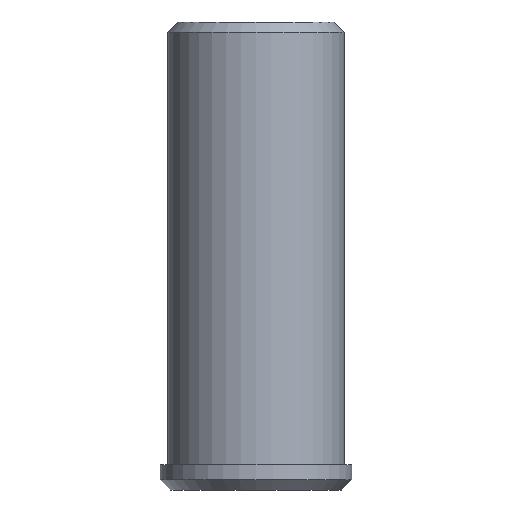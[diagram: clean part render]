
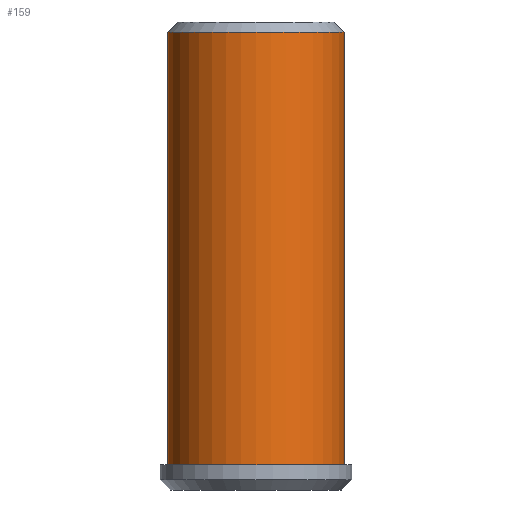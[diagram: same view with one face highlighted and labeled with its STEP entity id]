
A CAD part, front view. The second image highlights one B-rep face of the part: STEP entity #159.
In plain terms, the highlighted cylindrical face has radius 8.75 mm (diameter 17.5 mm), a full revolution.
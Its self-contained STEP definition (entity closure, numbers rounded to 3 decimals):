
#128=CARTESIAN_POINT('',(8.75,0.,-1.0));
#129=VERTEX_POINT('',#128);
#130=CARTESIAN_POINT('',(0.0,0.0,-1.0));
#131=DIRECTION('',(0.0,0.0,1.0));
#132=DIRECTION('',(-1.0,0.0,0.0));
#133=AXIS2_PLACEMENT_3D('',#130,#131,#132);
#134=CIRCLE('',#133,8.75);
#135=EDGE_CURVE('',#129,#129,#134,.T.);
#140=CARTESIAN_POINT('',(0.0,0.0,0.0));
#141=DIRECTION('',(0.0,0.0,-1.0));
#142=DIRECTION('',(-1.0,0.0,0.0));
#143=AXIS2_PLACEMENT_3D('',#140,#141,#142);
#144=CYLINDRICAL_SURFACE('',#143,8.75);
#145=CARTESIAN_POINT('',(8.75,0.,-44.0));
#146=VERTEX_POINT('',#145);
#147=CARTESIAN_POINT('',(0.0,0.0,-44.0));
#148=DIRECTION('',(0.0,0.0,1.0));
#149=DIRECTION('',(-1.0,0.0,0.0));
#150=AXIS2_PLACEMENT_3D('',#147,#148,#149);
#151=CIRCLE('',#150,8.75);
#152=EDGE_CURVE('',#146,#146,#151,.T.);
#153=ORIENTED_EDGE('',*,*,#152,.T.);
#154=EDGE_LOOP('',(#153));
#155=FACE_OUTER_BOUND('',#154,.T.);
#156=ORIENTED_EDGE('',*,*,#135,.F.);
#157=EDGE_LOOP('',(#156));
#158=FACE_BOUND('',#157,.T.);
#159=ADVANCED_FACE('',(#155,#158),#144,.T.);
